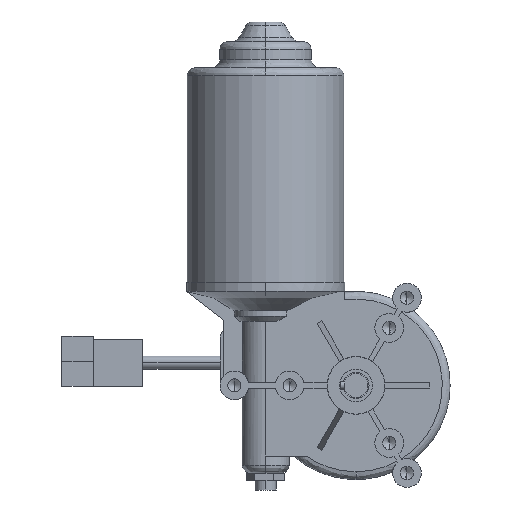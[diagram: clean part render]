
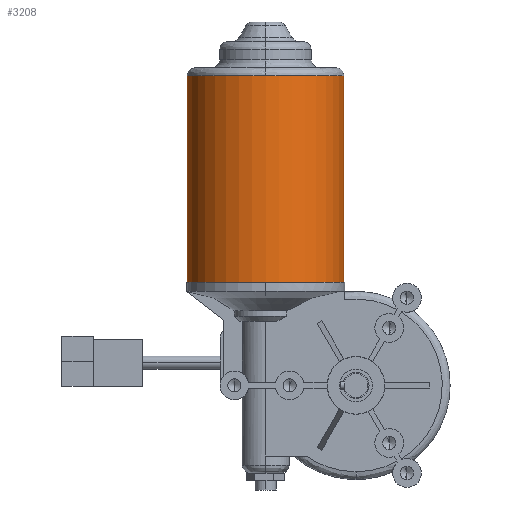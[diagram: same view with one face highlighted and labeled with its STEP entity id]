
A CAD part, left-side view. The second image highlights one B-rep face of the part: STEP entity #3208.
In plain terms, the highlighted cylindrical face has radius 30 mm (diameter 60 mm), a partial arc.
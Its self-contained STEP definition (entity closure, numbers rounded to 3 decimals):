
#62 = CARTESIAN_POINT ( 'NONE',  ( 59., 34.6, 118.5 ) ) ;
#123 = CARTESIAN_POINT ( 'NONE',  ( 59., 34.6, 118.5 ) ) ;
#149 = AXIS2_PLACEMENT_3D ( 'NONE', #123, #3116, #1732 ) ;
#352 = FACE_OUTER_BOUND ( 'NONE', #6010, .T. ) ;
#477 = CARTESIAN_POINT ( 'NONE',  ( 59., 64.6, 118.5 ) ) ;
#545 = ORIENTED_EDGE ( 'NONE', *, *, #2355, .F. ) ;
#678 = LINE ( 'NONE', #4172, #3718 ) ;
#769 = EDGE_CURVE ( 'NONE', #1856, #4937, #678, .T. ) ;
#1064 = AXIS2_PLACEMENT_3D ( 'NONE', #62, #5848, #3772 ) ;
#1141 = VERTEX_POINT ( 'NONE', #6490 ) ;
#1583 = CARTESIAN_POINT ( 'NONE',  ( 59., 34.6, 118.5 ) ) ;
#1732 = DIRECTION ( 'NONE',  ( 0., 1., 0. ) ) ;
#1741 = CIRCLE ( 'NONE', #3711, 30. ) ;
#1841 = DIRECTION ( 'NONE',  ( 0., 1., 0. ) ) ;
#1856 = VERTEX_POINT ( 'NONE', #3402 ) ;
#2077 = EDGE_CURVE ( 'NONE', #3732, #4203, #6316, .T. ) ;
#2112 = VECTOR ( 'NONE', #5852, 1000. ) ;
#2289 = ORIENTED_EDGE ( 'NONE', *, *, #2077, .T. ) ;
#2355 = EDGE_CURVE ( 'NONE', #3732, #1141, #6119, .T. ) ;
#2447 = CARTESIAN_POINT ( 'NONE',  ( 59., 64.6, 118.5 ) ) ;
#2677 = EDGE_CURVE ( 'NONE', #4203, #4937, #3419, .T. ) ;
#2967 = ORIENTED_EDGE ( 'NONE', *, *, #5016, .F. ) ;
#3116 = DIRECTION ( 'NONE',  ( 0., 0., -1. ) ) ;
#3208 = ADVANCED_FACE ( 'NONE', ( #352 ), #7136, .T. ) ;
#3283 = CARTESIAN_POINT ( 'NONE',  ( 59., 34.6, 39.5 ) ) ;
#3402 = CARTESIAN_POINT ( 'NONE',  ( 59., 4.6, 118.5 ) ) ;
#3419 = CIRCLE ( 'NONE', #3628, 30. ) ;
#3628 = AXIS2_PLACEMENT_3D ( 'NONE', #3283, #6882, #1841 ) ;
#3711 = AXIS2_PLACEMENT_3D ( 'NONE', #1583, #5152, #5592 ) ;
#3718 = VECTOR ( 'NONE', #6156, 1000. ) ;
#3732 = VERTEX_POINT ( 'NONE', #2447 ) ;
#3772 = DIRECTION ( 'NONE',  ( -1., 0., 0. ) ) ;
#4172 = CARTESIAN_POINT ( 'NONE',  ( 59., 4.6, 118.5 ) ) ;
#4203 = VERTEX_POINT ( 'NONE', #4294 ) ;
#4294 = CARTESIAN_POINT ( 'NONE',  ( 59., 64.6, 39.5 ) ) ;
#4937 = VERTEX_POINT ( 'NONE', #5321 ) ;
#5016 = EDGE_CURVE ( 'NONE', #1141, #1856, #1741, .T. ) ;
#5152 = DIRECTION ( 'NONE',  ( 0., 0., 1. ) ) ;
#5321 = CARTESIAN_POINT ( 'NONE',  ( 59., 4.6, 39.5 ) ) ;
#5592 = DIRECTION ( 'NONE',  ( -1., 0., 0. ) ) ;
#5848 = DIRECTION ( 'NONE',  ( 0., 0., 1. ) ) ;
#5852 = DIRECTION ( 'NONE',  ( 0., 0., -1. ) ) ;
#6010 = EDGE_LOOP ( 'NONE', ( #7556, #2967, #545, #2289, #7459 ) ) ;
#6119 = CIRCLE ( 'NONE', #1064, 30. ) ;
#6156 = DIRECTION ( 'NONE',  ( 0., 0., -1. ) ) ;
#6316 = LINE ( 'NONE', #477, #2112 ) ;
#6490 = CARTESIAN_POINT ( 'NONE',  ( 29., 34.6, 118.5 ) ) ;
#6882 = DIRECTION ( 'NONE',  ( 0., 0., 1. ) ) ;
#7136 = CYLINDRICAL_SURFACE ( 'NONE', #149, 30. ) ;
#7459 = ORIENTED_EDGE ( 'NONE', *, *, #2677, .T. ) ;
#7556 = ORIENTED_EDGE ( 'NONE', *, *, #769, .F. ) ;
